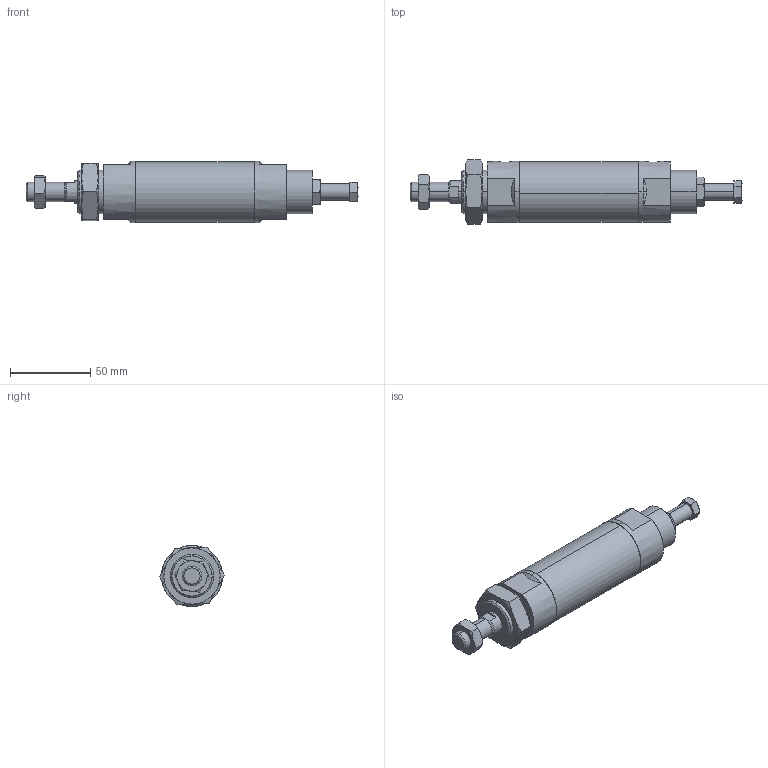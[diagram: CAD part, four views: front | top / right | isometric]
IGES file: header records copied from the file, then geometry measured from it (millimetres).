
Start section: SolidWorks IGES file using analytic representation for surfaces
Global section: file name: C:\Users\Toshiba\Desktop\JGA2-32-25-N.IGS; native system: SolidWorks 2014; preprocessor: SolidWorks 2014; author: Toshiba; date: 160420.130819; units: millimetre
Bounding box: 206.5 x 40.4 x 38 mm (x, y, z)
Surface area: 30615.7 mm2 (no closed solid volume)
Topology: 0 solids, 0 shells, 124 faces, 2186 edges, 2182 vertices
Faces by surface type: bspline 84, revolution 40
